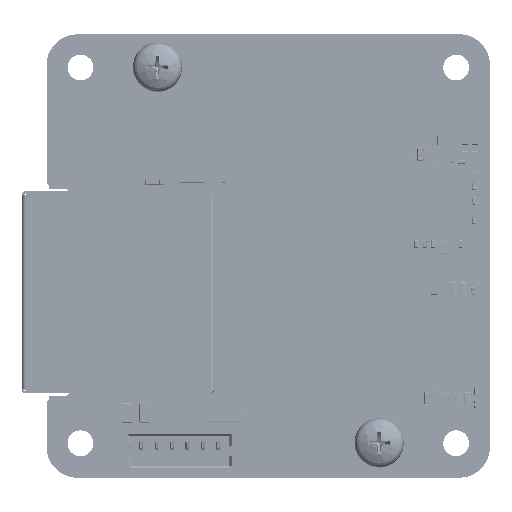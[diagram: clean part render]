
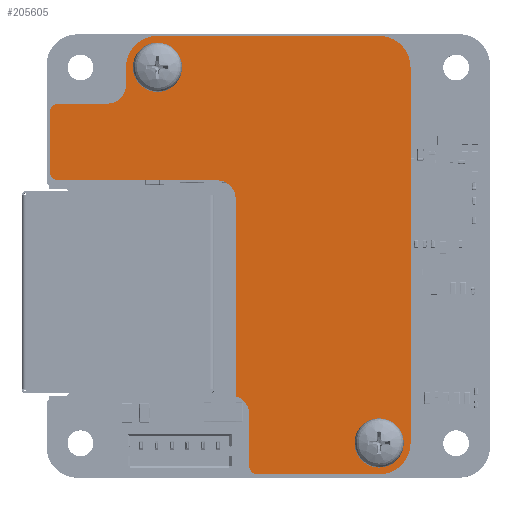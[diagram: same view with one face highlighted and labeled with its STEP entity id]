
A CAD part, top view. The second image highlights one B-rep face of the part: STEP entity #205605.
In plain terms, the highlighted planar face has unit normal (0, 0, 1).
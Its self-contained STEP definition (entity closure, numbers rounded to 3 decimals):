
#956=FACE_BOUND('',#45224,.T.);
#957=FACE_BOUND('',#45225,.T.);
#14425=CIRCLE('',#229404,0.7);
#14426=CIRCLE('',#229407,0.7);
#14427=CIRCLE('',#229410,1.499);
#14428=CIRCLE('',#229413,2.55);
#14429=CIRCLE('',#229416,2.55);
#14430=CIRCLE('',#229419,2.55);
#14431=CIRCLE('',#229422,0.7);
#14432=CIRCLE('',#229425,1.501);
#14433=CIRCLE('',#229428,1.499);
#14434=CIRCLE('',#229431,1.15);
#14435=CIRCLE('',#229433,1.15);
#32048=FACE_OUTER_BOUND('',#45223,.T.);
#45223=EDGE_LOOP('',(#174758,#174759,#174760,#174761,#174762,#174763,#174764,
#174765,#174766,#174767,#174768,#174769,#174770,#174771,#174772,#174773,
#174774,#174775));
#45224=EDGE_LOOP('',(#174776));
#45225=EDGE_LOOP('',(#174777));
#61771=LINE('',#348662,#78303);
#61774=LINE('',#348670,#78306);
#61777=LINE('',#348678,#78309);
#61780=LINE('',#348686,#78312);
#61783=LINE('',#348694,#78315);
#61786=LINE('',#348702,#78318);
#61789=LINE('',#348710,#78321);
#61792=LINE('',#348718,#78324);
#61795=LINE('',#348725,#78327);
#78303=VECTOR('',#291943,1.);
#78306=VECTOR('',#291952,1.);
#78309=VECTOR('',#291961,1.);
#78312=VECTOR('',#291970,1.);
#78315=VECTOR('',#291979,1.);
#78318=VECTOR('',#291988,1.);
#78321=VECTOR('',#291997,1.);
#78324=VECTOR('',#292006,1.);
#78327=VECTOR('',#292015,1.);
#93693=VERTEX_POINT('',#348655);
#93694=VERTEX_POINT('',#348657);
#93695=VERTEX_POINT('',#348661);
#93696=VERTEX_POINT('',#348665);
#93697=VERTEX_POINT('',#348669);
#93698=VERTEX_POINT('',#348673);
#93699=VERTEX_POINT('',#348677);
#93700=VERTEX_POINT('',#348681);
#93701=VERTEX_POINT('',#348685);
#93702=VERTEX_POINT('',#348689);
#93703=VERTEX_POINT('',#348693);
#93704=VERTEX_POINT('',#348697);
#93705=VERTEX_POINT('',#348701);
#93706=VERTEX_POINT('',#348705);
#93707=VERTEX_POINT('',#348709);
#93708=VERTEX_POINT('',#348713);
#93709=VERTEX_POINT('',#348717);
#93710=VERTEX_POINT('',#348721);
#93711=VERTEX_POINT('',#348727);
#93712=VERTEX_POINT('',#348731);
#120886=EDGE_CURVE('',#93693,#93694,#14425,.T.);
#120888=EDGE_CURVE('',#93694,#93695,#61771,.T.);
#120890=EDGE_CURVE('',#93695,#93696,#14426,.T.);
#120892=EDGE_CURVE('',#93696,#93697,#61774,.T.);
#120894=EDGE_CURVE('',#93697,#93698,#14427,.T.);
#120896=EDGE_CURVE('',#93698,#93699,#61777,.T.);
#120898=EDGE_CURVE('',#93699,#93700,#14428,.T.);
#120900=EDGE_CURVE('',#93700,#93701,#61780,.T.);
#120902=EDGE_CURVE('',#93701,#93702,#14429,.T.);
#120904=EDGE_CURVE('',#93702,#93703,#61783,.T.);
#120906=EDGE_CURVE('',#93703,#93704,#14430,.T.);
#120908=EDGE_CURVE('',#93704,#93705,#61786,.T.);
#120910=EDGE_CURVE('',#93705,#93706,#14431,.T.);
#120912=EDGE_CURVE('',#93706,#93707,#61789,.T.);
#120914=EDGE_CURVE('',#93707,#93708,#14432,.T.);
#120916=EDGE_CURVE('',#93708,#93709,#61792,.T.);
#120918=EDGE_CURVE('',#93709,#93710,#14433,.T.);
#120920=EDGE_CURVE('',#93710,#93693,#61795,.T.);
#120921=EDGE_CURVE('',#93711,#93711,#14434,.T.);
#120923=EDGE_CURVE('',#93712,#93712,#14435,.T.);
#174758=ORIENTED_EDGE('',*,*,#120886,.F.);
#174759=ORIENTED_EDGE('',*,*,#120920,.F.);
#174760=ORIENTED_EDGE('',*,*,#120918,.F.);
#174761=ORIENTED_EDGE('',*,*,#120916,.F.);
#174762=ORIENTED_EDGE('',*,*,#120914,.F.);
#174763=ORIENTED_EDGE('',*,*,#120912,.F.);
#174764=ORIENTED_EDGE('',*,*,#120910,.F.);
#174765=ORIENTED_EDGE('',*,*,#120908,.F.);
#174766=ORIENTED_EDGE('',*,*,#120906,.F.);
#174767=ORIENTED_EDGE('',*,*,#120904,.F.);
#174768=ORIENTED_EDGE('',*,*,#120902,.F.);
#174769=ORIENTED_EDGE('',*,*,#120900,.F.);
#174770=ORIENTED_EDGE('',*,*,#120898,.F.);
#174771=ORIENTED_EDGE('',*,*,#120896,.F.);
#174772=ORIENTED_EDGE('',*,*,#120894,.F.);
#174773=ORIENTED_EDGE('',*,*,#120892,.F.);
#174774=ORIENTED_EDGE('',*,*,#120890,.F.);
#174775=ORIENTED_EDGE('',*,*,#120888,.F.);
#174776=ORIENTED_EDGE('',*,*,#120921,.F.);
#174777=ORIENTED_EDGE('',*,*,#120923,.F.);
#180733=PLANE('',#229434);
#205605=ADVANCED_FACE('',(#32048,#956,#957),#180733,.F.);
#229404=AXIS2_PLACEMENT_3D('',#348658,#291938,#291939);
#229407=AXIS2_PLACEMENT_3D('',#348666,#291947,#291948);
#229410=AXIS2_PLACEMENT_3D('',#348674,#291956,#291957);
#229413=AXIS2_PLACEMENT_3D('',#348682,#291965,#291966);
#229416=AXIS2_PLACEMENT_3D('',#348690,#291974,#291975);
#229419=AXIS2_PLACEMENT_3D('',#348698,#291983,#291984);
#229422=AXIS2_PLACEMENT_3D('',#348706,#291992,#291993);
#229425=AXIS2_PLACEMENT_3D('',#348714,#292001,#292002);
#229428=AXIS2_PLACEMENT_3D('',#348722,#292010,#292011);
#229431=AXIS2_PLACEMENT_3D('',#348728,#292018,#292019);
#229433=AXIS2_PLACEMENT_3D('',#348732,#292023,#292024);
#229434=AXIS2_PLACEMENT_3D('',#348734,#292026,#292027);
#291938=DIRECTION('center_axis',(0.,0.,-1.));
#291939=DIRECTION('ref_axis',(0.,-1.,0.));
#291943=DIRECTION('',(0.,1.,0.));
#291947=DIRECTION('center_axis',(0.,0.,-1.));
#291948=DIRECTION('ref_axis',(-1.,0.,0.));
#291952=DIRECTION('',(1.,0.,0.));
#291956=DIRECTION('center_axis',(0.,0.,1.));
#291957=DIRECTION('ref_axis',(-0.001,-1.,
0.));
#291961=DIRECTION('',(0.,1.,0.));
#291965=DIRECTION('center_axis',(0.,0.,-1.));
#291966=DIRECTION('ref_axis',(-1.,0.,0.));
#291970=DIRECTION('',(1.,0.,0.));
#291974=DIRECTION('center_axis',(0.,0.,-1.));
#291975=DIRECTION('ref_axis',(0.,1.,0.));
#291979=DIRECTION('',(0.,-1.,0.));
#291983=DIRECTION('center_axis',(0.,0.,-1.));
#291984=DIRECTION('ref_axis',(1.,0.,0.));
#291988=DIRECTION('',(-1.,0.,0.));
#291992=DIRECTION('center_axis',(0.,0.,-1.));
#291993=DIRECTION('ref_axis',(0.,-1.,0.));
#291997=DIRECTION('',(0.,1.,0.));
#292001=DIRECTION('center_axis',(0.,0.,1.));
#292002=DIRECTION('ref_axis',(1.,0.,0.));
#292006=DIRECTION('',(0.,1.,0.));
#292010=DIRECTION('center_axis',(0.,0.,1.));
#292011=DIRECTION('ref_axis',(1.,-0.001,0.));
#292015=DIRECTION('',(-1.,0.,0.));
#292018=DIRECTION('center_axis',(0.,0.,1.));
#292019=DIRECTION('ref_axis',(1.,0.,0.));
#292023=DIRECTION('center_axis',(0.,0.,1.));
#292024=DIRECTION('ref_axis',(1.,0.,0.));
#292026=DIRECTION('center_axis',(0.,0.,-1.));
#292027=DIRECTION('ref_axis',(-1.,0.,0.));
#348655=CARTESIAN_POINT('',(-26.05,21.325,0.));
#348657=CARTESIAN_POINT('',(-26.75,22.025,0.));
#348658=CARTESIAN_POINT('Origin',(-26.05,22.025,0.));
#348661=CARTESIAN_POINT('',(-26.75,26.85,0.));
#348662=CARTESIAN_POINT('',(-26.75,22.025,0.));
#348665=CARTESIAN_POINT('',(-26.05,27.55,0.));
#348666=CARTESIAN_POINT('Origin',(-26.05,26.85,0.));
#348669=CARTESIAN_POINT('',(-22.05,27.55,0.));
#348670=CARTESIAN_POINT('',(-26.05,27.55,0.));
#348673=CARTESIAN_POINT('',(-20.55,29.05,0.));
#348674=CARTESIAN_POINT('Origin',(-22.049,29.049,0.));
#348677=CARTESIAN_POINT('',(-20.55,30.5,0.));
#348678=CARTESIAN_POINT('',(-20.55,29.05,0.));
#348681=CARTESIAN_POINT('',(-18.,33.05,0.));
#348682=CARTESIAN_POINT('Origin',(-18.,30.5,0.));
#348685=CARTESIAN_POINT('',(0.,33.05,0.));
#348686=CARTESIAN_POINT('',(-18.,33.05,0.));
#348689=CARTESIAN_POINT('',(2.55,30.5,0.));
#348690=CARTESIAN_POINT('Origin',(0.,30.5,0.));
#348693=CARTESIAN_POINT('',(2.55,0.,0.));
#348694=CARTESIAN_POINT('',(2.55,30.5,0.));
#348697=CARTESIAN_POINT('',(0.,-2.55,0.));
#348698=CARTESIAN_POINT('Origin',(0.,0.,
0.));
#348701=CARTESIAN_POINT('',(-9.85,-2.55,0.));
#348702=CARTESIAN_POINT('',(0.,-2.55,0.));
#348705=CARTESIAN_POINT('',(-10.55,-1.85,0.));
#348706=CARTESIAN_POINT('Origin',(-9.85,-1.85,0.));
#348709=CARTESIAN_POINT('',(-10.55,2.35,0.));
#348710=CARTESIAN_POINT('',(-10.55,-1.85,0.));
#348713=CARTESIAN_POINT('',(-11.65,3.796,0.));
#348714=CARTESIAN_POINT('Origin',(-12.051,2.35,0.));
#348717=CARTESIAN_POINT('',(-11.65,19.825,0.));
#348718=CARTESIAN_POINT('',(-11.65,3.796,0.));
#348721=CARTESIAN_POINT('',(-13.15,21.325,0.));
#348722=CARTESIAN_POINT('Origin',(-13.149,19.826,0.));
#348725=CARTESIAN_POINT('',(-13.15,21.325,0.));
#348727=CARTESIAN_POINT('',(-19.15,30.5,0.));
#348728=CARTESIAN_POINT('Origin',(-18.,30.5,0.));
#348731=CARTESIAN_POINT('',(-1.15,0.,0.));
#348732=CARTESIAN_POINT('Origin',(0.,0.,0.));
#348734=CARTESIAN_POINT('Origin',(-8.943,17.735,0.));
